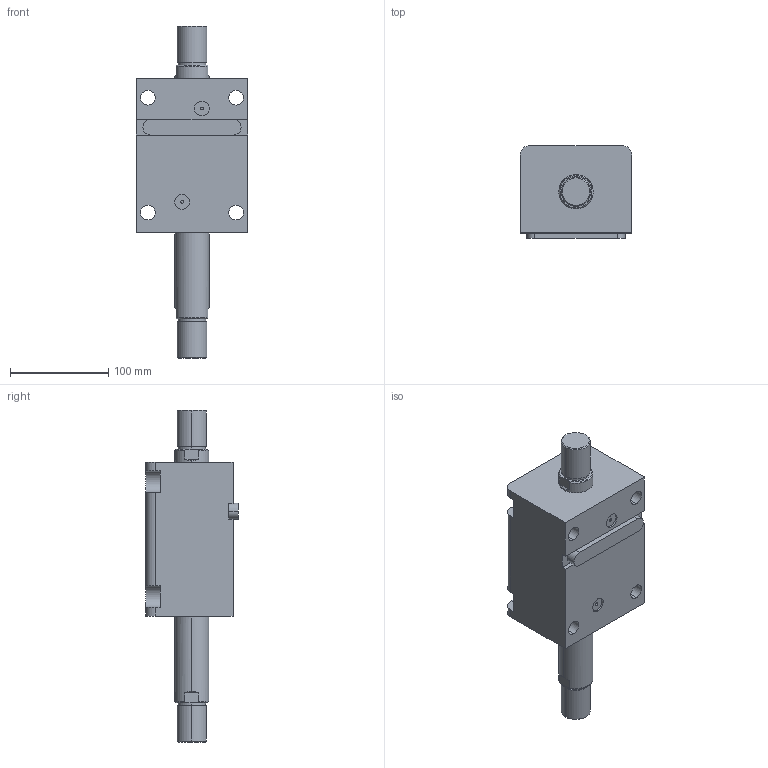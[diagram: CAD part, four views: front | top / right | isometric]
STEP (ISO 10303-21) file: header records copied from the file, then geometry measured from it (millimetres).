
FILE_DESCRIPTION (( 'STEP AP203' ), '1' );
FILE_NAME ('HTB-LWM63-75W.STEP', '2020-12-25T03:52:48', ( '微软用户' ), ( '微软中国' ), 'SwSTEP 2.0', 'SolidWorks 2012', '' );
FILE_SCHEMA (( 'CONFIG_CONTROL_DESIGN' ));
Length unit declared in the file: millimetre
Products named in the file (4): HTB-LWM63-75掛极; HTB-LWM63-75W活塞杆; HTB-LWM63-瑩; HTB-LWM63-75W
Assembly tree (3 placements, depth 2):
  HTB-LWM63-75W
    HTB-LWM63-75掛极
    HTB-LWM63-75W活塞杆
    HTB-LWM63-瑩
Bounding box: 114 x 94.5 x 338 mm (x, y, z)
Volume: 1505638.1 mm3; surface area: 175751.6 mm2
Topology: 3 solids, 3 shells, 113 faces, 273 edges, 178 vertices
Faces by surface type: cylinder 49, plane 48, torus 8, cone 8
Entity records: 3783 total; most frequent: CARTESIAN_POINT 626, DIRECTION 617, ORIENTED_EDGE 546, EDGE_CURVE 273, AXIS2_PLACEMENT_3D 241, VERTEX_POINT 178, LINE 135, VECTOR 135
